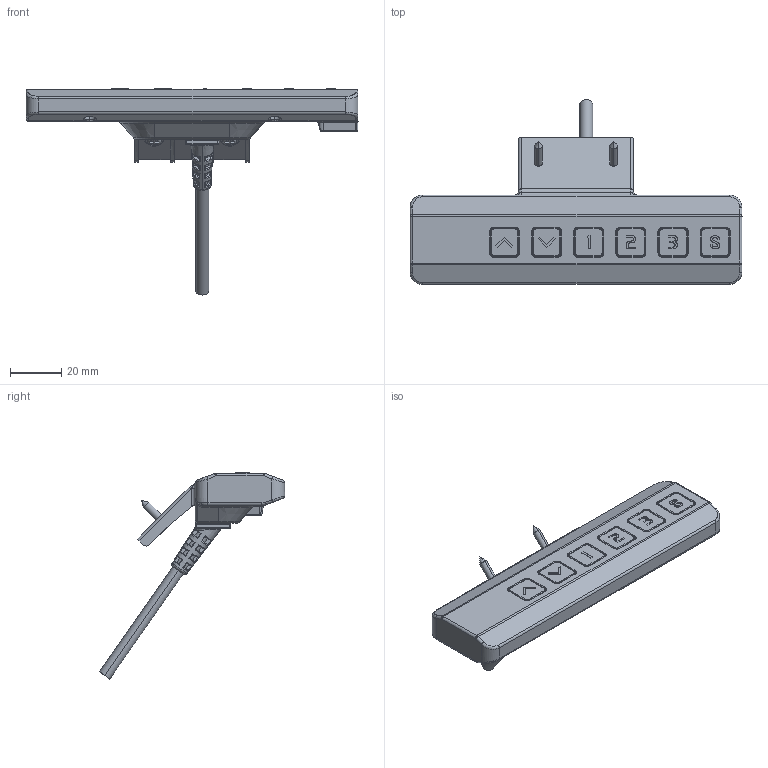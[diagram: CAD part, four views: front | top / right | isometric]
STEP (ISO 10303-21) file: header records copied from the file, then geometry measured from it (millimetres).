
FILE_DESCRIPTION((''),'2;1');
FILE_NAME('MT-SJ-SK','2019-09-20T',('USER'),(''),'PRO/ENGINEER BY PARAMETRIC TECHNOLOGY CORPORATION, 2016240','PRO/ENGINEER BY PARAMETRIC TECHNOLOGY CORPORATION, 2016240','');
FILE_SCHEMA(('CONFIG_CONTROL_DESIGN'));
Length unit declared in the file: millimetre
Products named in the file (1): MT-SJ-SK
Bounding box: 130 x 72.51 x 80.67 mm (x, y, z)
Volume: 31706.8 mm3; surface area: 34786.2 mm2
Topology: 2 solids, 10 shells, 1471 faces, 4055 edges, 2639 vertices
Faces by surface type: plane 765, cylinder 414, torus 132, bspline 77, extrusion 66, cone 15, sphere 2
Entity records: 52752 total; most frequent: CARTESIAN_POINT 15893, ORIENTED_EDGE 8102, DIRECTION 7083, EDGE_CURVE 4051, VERTEX_POINT 2639, VECTOR 2509, LINE 2443, AXIS2_PLACEMENT_3D 2287
